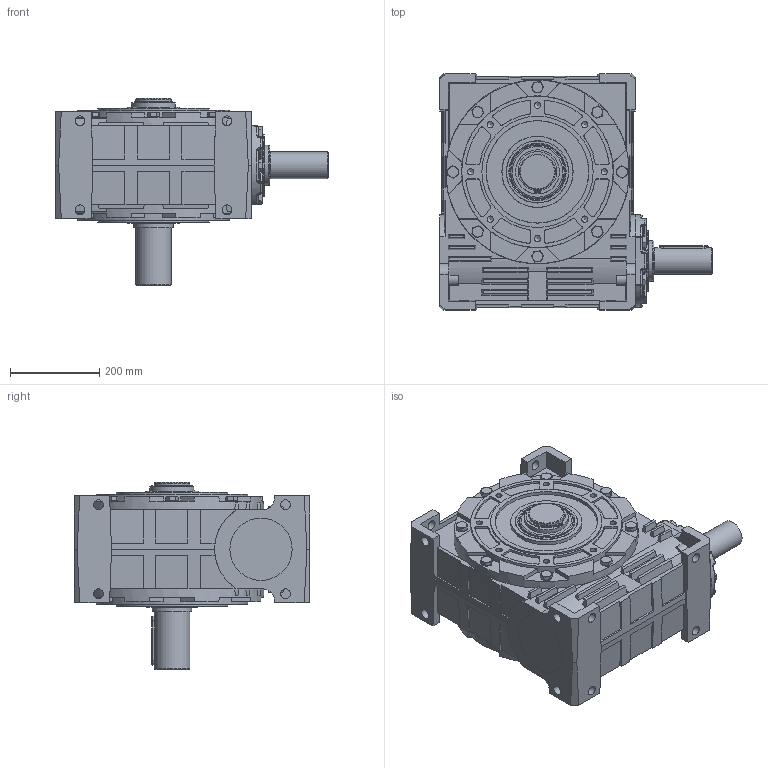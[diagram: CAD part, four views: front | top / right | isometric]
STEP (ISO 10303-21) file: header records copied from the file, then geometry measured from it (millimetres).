
FILE_DESCRIPTION (( 'STEP AP203' ), '1' );
FILE_NAME ('R-200_WBS_WJ_1_3D.STEP', '2018-11-19T07:15:17', ( 'Biuro' ), ( 'Microsoft' ), 'SwSTEP 2.0', 'SolidWorks 2013', '' );
FILE_SCHEMA (( 'CONFIG_CONTROL_DESIGN' ));
Length unit declared in the file: millimetre
Products named in the file (1): R-200_WBS_WJ_1_3D
Bounding box: 613 x 530 x 420 mm (x, y, z)
Volume: 49520530.5 mm3; surface area: 1372394.5 mm2
Topology: 1 solids, 14 shells, 1251 faces, 3118 edges, 1947 vertices
Faces by surface type: plane 705, cone 247, cylinder 163, bspline 61, torus 47, sphere 28
Full cylindrical faces by diameter (mm): 3 x2, 14 x17, 16 x6, 17 x7, 17.5 x1, 21 x1, 22 x12, 24 x14, 59.6 x1, 60 x1, 76.5 x1, 79.5 x1, 80 x6, 80.3 x1, 89 x1, 90 x2, 99 x1, 110 x1, 120 x2, 140 x3, 250 x2
Entity records: 39542 total; most frequent: CARTESIAN_POINT 11305, ORIENTED_EDGE 5782, DIRECTION 5698, EDGE_CURVE 2891, AXIS2_PLACEMENT_3D 2089, VERTEX_POINT 1868, LINE 1520, VECTOR 1520
